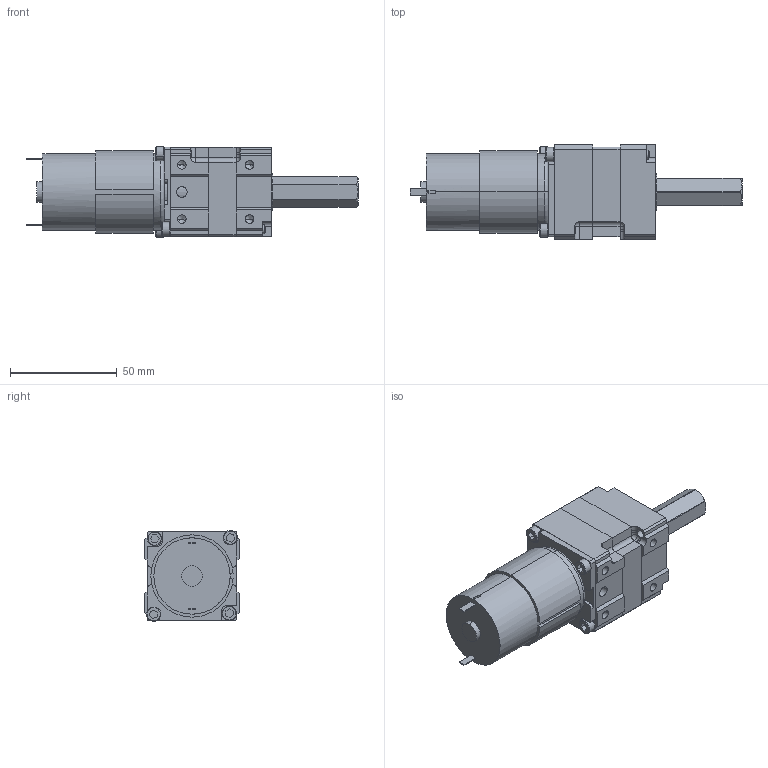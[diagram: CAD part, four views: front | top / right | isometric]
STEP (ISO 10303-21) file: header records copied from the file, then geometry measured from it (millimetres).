
FILE_DESCRIPTION (( 'STEP AP214' ), '1' );
FILE_NAME ('217-4973_1stage_550.STEP', '2016-10-31T22:15:12', ( '' ), ( '' ), 'SwSTEP 2.0', 'SolidWorks 2016', '' );
FILE_SCHEMA (( 'AUTOMOTIVE_DESIGN' ));
Length unit declared in the file: inch
Products named in the file (22): 217-2625-005 Rev1_Planet_Revolving_Follower01; 217-2625-008 Rev1; 217-2625-100; 217-2625-025 Rev1; 217-4649-005 Rev1_SSA0003-008BA; 832-1750-Ring-Gear-Screw_SSA0832-0500ZC; 217-2625-018 Rev1_98541A410; 217-2822-001 Rev4; 217-4973_1stage_550; 217-4649-002 Rev1_SSA0832-0500ZC; 217-2625-010 Rev1; 217-2625-017 Rev1_9714K61; 217-2625-007 Rev1_Public; BaneBots RS550; 217-4649-001 Rev1; 217-2742-001 Rev4; 217-2625-026 Rev1; 217-2625-003 Rev1; 217-2625-012 Rev1; 217-2820 Rev1_Public; 217-4649-007 Rev1_94105A824; 217-2816-001 Rev1
Assembly tree (29 placements, depth 4):
  217-4973_1stage_550
    217-2625-026 Rev1
    217-2742-001 Rev4  x2
    217-2625-017 Rev1_9714K61
    217-2625-003 Rev1
    217-2625-018 Rev1_98541A410
    832-1750-Ring-Gear-Screw_SSA0832-0500ZC  x2
    217-2625-025 Rev1
    217-4649-002 Rev1_SSA0832-0500ZC  x2
    217-4649-005 Rev1_SSA0003-008BA  x2
    217-2822-001 Rev4
    BaneBots RS550
    217-2820 Rev1_Public
      217-2625-100
        217-2625-008 Rev1
        217-2625-010 Rev1  x3
        217-2625-005 Rev1_Planet_Revolving_Follower01  x3
      217-2625-007 Rev1_Public
    217-2816-001 Rev1
    217-4649-001 Rev1
    217-4649-007 Rev1_94105A824
    217-2625-012 Rev1
Bounding box: 155.67 x 44.45 x 42.65 mm (x, y, z)
Volume: 135515.9 mm3; surface area: 58870 mm2
Topology: 27 solids, 27 shells, 1835 faces, 4873 edges, 3124 vertices
Faces by surface type: cylinder 729, plane 388, bspline 328, cone 254, torus 132, sphere 4
Entity records: 94690 total; most frequent: CARTESIAN_POINT 55042, ORIENTED_EDGE 8442, DIRECTION 7483, EDGE_CURVE 4221, AXIS2_PLACEMENT_3D 3017, VERTEX_POINT 2718, EDGE_LOOP 1703, CIRCLE 1658
